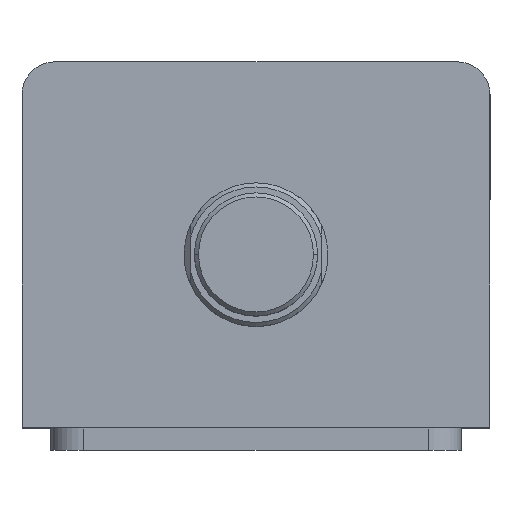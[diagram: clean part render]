
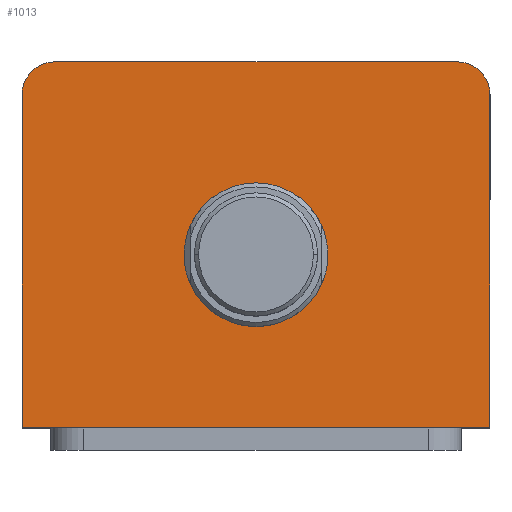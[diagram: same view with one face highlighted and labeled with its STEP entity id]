
A CAD part, top view. The second image highlights one B-rep face of the part: STEP entity #1013.
In plain terms, the highlighted planar face has unit normal (0, 0, 1).
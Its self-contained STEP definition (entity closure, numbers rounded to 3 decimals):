
#152 = ORIENTED_EDGE ( 'NONE', *, *, #1684, .T. ) ;
#154 = ORIENTED_EDGE ( 'NONE', *, *, #938, .F. ) ;
#160 = ORIENTED_EDGE ( 'NONE', *, *, #932, .F. ) ;
#161 = ORIENTED_EDGE ( 'NONE', *, *, #1688, .T. ) ;
#162 = ORIENTED_EDGE ( 'NONE', *, *, #966, .T. ) ;
#241 = DIRECTION ( 'NONE',  ( -1., 0., 0. ) ) ;
#242 = CARTESIAN_POINT ( 'NONE',  ( -57., 44.5, 127. ) ) ;
#296 = DIRECTION ( 'NONE',  ( 1., 0., 0. ) ) ;
#308 = CARTESIAN_POINT ( 'NONE',  ( -57., -44.5, 127. ) ) ;
#315 = DIRECTION ( 'NONE',  ( 1., 0., 0. ) ) ;
#316 = DIRECTION ( 'NONE',  ( 0., 0., 1. ) ) ;
#318 = CARTESIAN_POINT ( 'NONE',  ( 0., -2.5, 127. ) ) ;
#326 = DIRECTION ( 'NONE',  ( 1., 0., 0. ) ) ;
#327 = DIRECTION ( 'NONE',  ( 0., 0., 1. ) ) ;
#328 = CARTESIAN_POINT ( 'NONE',  ( 0., -2.5, 127. ) ) ;
#489 = FACE_BOUND ( 'NONE', #2453, .T. ) ;
#495 = FACE_OUTER_BOUND ( 'NONE', #2421, .T. ) ;
#533 = VECTOR ( 'NONE', #241, 1000. ) ;
#534 = LINE ( 'NONE', #242, #533 ) ;
#544 = LINE ( 'NONE', #308, #558 ) ;
#558 = VECTOR ( 'NONE', #296, 1000. ) ;
#892 = AXIS2_PLACEMENT_3D ( 'NONE', #328, #327, #326 ) ;
#897 = CIRCLE ( 'NONE', #2522, 17.5 ) ;
#903 = CIRCLE ( 'NONE', #892, 17.5 ) ;
#932 = EDGE_CURVE ( 'NONE', #1171, #1284, #903, .T. ) ;
#938 = EDGE_CURVE ( 'NONE', #1284, #1171, #897, .T. ) ;
#949 = EDGE_CURVE ( 'NONE', #1276, #1293, #544, .T. ) ;
#966 = EDGE_CURVE ( 'NONE', #1164, #1198, #534, .T. ) ;
#1013 = ADVANCED_FACE ( 'NONE', ( #489, #495 ), #3441, .T. ) ;
#1164 = VERTEX_POINT ( 'NONE', #3046 ) ;
#1171 = VERTEX_POINT ( 'NONE', #3036 ) ;
#1198 = VERTEX_POINT ( 'NONE', #2998 ) ;
#1201 = VERTEX_POINT ( 'NONE', #2994 ) ;
#1273 = VERTEX_POINT ( 'NONE', #2909 ) ;
#1276 = VERTEX_POINT ( 'NONE', #3082 ) ;
#1284 = VERTEX_POINT ( 'NONE', #2905 ) ;
#1293 = VERTEX_POINT ( 'NONE', #3373 ) ;
#1667 = EDGE_CURVE ( 'NONE', #1293, #1273, #1977, .T. ) ;
#1675 = EDGE_CURVE ( 'NONE', #1273, #1164, #1969, .T. ) ;
#1684 = EDGE_CURVE ( 'NONE', #1198, #1201, #1993, .T. ) ;
#1688 = EDGE_CURVE ( 'NONE', #1201, #1276, #1999, .T. ) ;
#1969 = CIRCLE ( 'NONE', #2720, 8. ) ;
#1972 = VECTOR ( 'NONE', #3292, 1000. ) ;
#1977 = LINE ( 'NONE', #3294, #1972 ) ;
#1993 = CIRCLE ( 'NONE', #2729, 8. ) ;
#1999 = LINE ( 'NONE', #3310, #2002 ) ;
#2002 = VECTOR ( 'NONE', #3308, 1000. ) ;
#2421 = EDGE_LOOP ( 'NONE', ( #162, #152, #161, #3690, #3691, #3692 ) ) ;
#2453 = EDGE_LOOP ( 'NONE', ( #154, #160 ) ) ;
#2522 = AXIS2_PLACEMENT_3D ( 'NONE', #318, #316, #315 ) ;
#2546 = AXIS2_PLACEMENT_3D ( 'NONE', #3470, #3432, #3431 ) ;
#2720 = AXIS2_PLACEMENT_3D ( 'NONE', #3380, #3378, #3377 ) ;
#2729 = AXIS2_PLACEMENT_3D ( 'NONE', #3324, #3323, #3322 ) ;
#2905 = CARTESIAN_POINT ( 'NONE',  ( 17.5, -2.5, 127. ) ) ;
#2909 = CARTESIAN_POINT ( 'NONE',  ( 57., 36.5, 127. ) ) ;
#2994 = CARTESIAN_POINT ( 'NONE',  ( -57., 36.5, 127. ) ) ;
#2998 = CARTESIAN_POINT ( 'NONE',  ( -49., 44.5, 127. ) ) ;
#3036 = CARTESIAN_POINT ( 'NONE',  ( -17.5, -2.5, 127. ) ) ;
#3046 = CARTESIAN_POINT ( 'NONE',  ( 49., 44.5, 127. ) ) ;
#3082 = CARTESIAN_POINT ( 'NONE',  ( -57., -44.5, 127. ) ) ;
#3292 = DIRECTION ( 'NONE',  ( 0., 1., 0. ) ) ;
#3294 = CARTESIAN_POINT ( 'NONE',  ( 57., 44.5, 127. ) ) ;
#3308 = DIRECTION ( 'NONE',  ( 0., -1., 0. ) ) ;
#3310 = CARTESIAN_POINT ( 'NONE',  ( -57., 44.5, 127. ) ) ;
#3322 = DIRECTION ( 'NONE',  ( 1., 0., 0. ) ) ;
#3323 = DIRECTION ( 'NONE',  ( 0., 0., 1. ) ) ;
#3324 = CARTESIAN_POINT ( 'NONE',  ( -49., 36.5, 127. ) ) ;
#3373 = CARTESIAN_POINT ( 'NONE',  ( 57., -44.5, 127. ) ) ;
#3377 = DIRECTION ( 'NONE',  ( 1., 0., 0. ) ) ;
#3378 = DIRECTION ( 'NONE',  ( 0., 0., 1. ) ) ;
#3380 = CARTESIAN_POINT ( 'NONE',  ( 49., 36.5, 127. ) ) ;
#3431 = DIRECTION ( 'NONE',  ( 1., 0., 0. ) ) ;
#3432 = DIRECTION ( 'NONE',  ( 0., 0., 1. ) ) ;
#3441 = PLANE ( 'NONE',  #2546 ) ;
#3470 = CARTESIAN_POINT ( 'NONE',  ( 0., 0., 127. ) ) ;
#3690 = ORIENTED_EDGE ( 'NONE', *, *, #949, .T. ) ;
#3691 = ORIENTED_EDGE ( 'NONE', *, *, #1667, .T. ) ;
#3692 = ORIENTED_EDGE ( 'NONE', *, *, #1675, .T. ) ;
